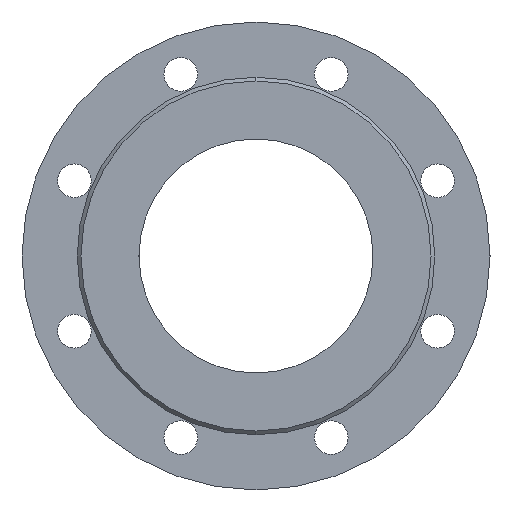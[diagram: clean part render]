
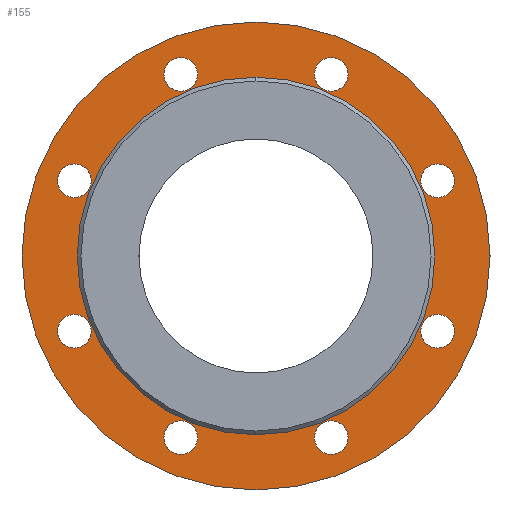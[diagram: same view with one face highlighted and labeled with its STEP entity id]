
A CAD part, left-side view. The second image highlights one B-rep face of the part: STEP entity #155.
In plain terms, the highlighted planar face has unit normal (-1, 0, 0).
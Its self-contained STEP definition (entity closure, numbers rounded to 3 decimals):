
#155=ADVANCED_FACE('',(#332,#333,#334,#335,#336,#337,#338,#339,#340,#341),#342,.F.);
#332=FACE_BOUND('',#596,.T.);
#333=FACE_BOUND('',#597,.T.);
#334=FACE_BOUND('',#598,.T.);
#335=FACE_BOUND('',#599,.T.);
#336=FACE_BOUND('',#600,.T.);
#337=FACE_BOUND('',#601,.T.);
#338=FACE_BOUND('',#602,.T.);
#339=FACE_BOUND('',#603,.T.);
#340=FACE_BOUND('',#604,.T.);
#341=FACE_OUTER_BOUND('',#605,.T.);
#342=PLANE('',#606);
#596=EDGE_LOOP('',(#899,#900));
#597=EDGE_LOOP('',(#901,#902));
#598=EDGE_LOOP('',(#903,#904));
#599=EDGE_LOOP('',(#905,#906));
#600=EDGE_LOOP('',(#907,#908));
#601=EDGE_LOOP('',(#909,#910));
#602=EDGE_LOOP('',(#911,#912));
#603=EDGE_LOOP('',(#913,#914));
#604=EDGE_LOOP('',(#915,#916));
#605=EDGE_LOOP('',(#917,#918));
#606=AXIS2_PLACEMENT_3D('',#919,#920,#921);
#899=ORIENTED_EDGE('',*,*,#1419,.T.);
#900=ORIENTED_EDGE('',*,*,#1385,.T.);
#901=ORIENTED_EDGE('',*,*,#1360,.T.);
#902=ORIENTED_EDGE('',*,*,#1420,.T.);
#903=ORIENTED_EDGE('',*,*,#1421,.T.);
#904=ORIENTED_EDGE('',*,*,#1422,.T.);
#905=ORIENTED_EDGE('',*,*,#1380,.T.);
#906=ORIENTED_EDGE('',*,*,#1397,.T.);
#907=ORIENTED_EDGE('',*,*,#1423,.T.);
#908=ORIENTED_EDGE('',*,*,#1424,.T.);
#909=ORIENTED_EDGE('',*,*,#1355,.T.);
#910=ORIENTED_EDGE('',*,*,#1425,.T.);
#911=ORIENTED_EDGE('',*,*,#1426,.T.);
#912=ORIENTED_EDGE('',*,*,#1427,.T.);
#913=ORIENTED_EDGE('',*,*,#1428,.T.);
#914=ORIENTED_EDGE('',*,*,#1429,.T.);
#915=ORIENTED_EDGE('',*,*,#1430,.T.);
#916=ORIENTED_EDGE('',*,*,#1431,.T.);
#917=ORIENTED_EDGE('',*,*,#1432,.F.);
#918=ORIENTED_EDGE('',*,*,#1403,.F.);
#919=CARTESIAN_POINT('',(2.0,0.0,0.));
#920=DIRECTION('',(1.0,0.0,0.));
#921=DIRECTION('',(0.,0.0,-1.0));
#1355=EDGE_CURVE('',#1576,#1580,#1582,.T.);
#1360=EDGE_CURVE('',#1585,#1589,#1591,.T.);
#1380=EDGE_CURVE('',#1621,#1625,#1627,.T.);
#1385=EDGE_CURVE('',#1630,#1634,#1636,.T.);
#1397=EDGE_CURVE('',#1625,#1621,#1656,.T.);
#1403=EDGE_CURVE('',#1664,#1659,#1666,.T.);
#1419=EDGE_CURVE('',#1634,#1630,#1692,.T.);
#1420=EDGE_CURVE('',#1589,#1585,#1693,.T.);
#1421=EDGE_CURVE('',#1694,#1695,#1696,.T.);
#1422=EDGE_CURVE('',#1695,#1694,#1697,.T.);
#1423=EDGE_CURVE('',#1698,#1699,#1700,.T.);
#1424=EDGE_CURVE('',#1699,#1698,#1701,.T.);
#1425=EDGE_CURVE('',#1580,#1576,#1702,.T.);
#1426=EDGE_CURVE('',#1703,#1704,#1705,.T.);
#1427=EDGE_CURVE('',#1704,#1703,#1706,.T.);
#1428=EDGE_CURVE('',#1707,#1708,#1709,.T.);
#1429=EDGE_CURVE('',#1708,#1707,#1710,.T.);
#1430=EDGE_CURVE('',#1711,#1712,#1713,.T.);
#1431=EDGE_CURVE('',#1712,#1711,#1714,.T.);
#1432=EDGE_CURVE('',#1659,#1664,#1715,.T.);
#1576=VERTEX_POINT('',#1903);
#1580=VERTEX_POINT('',#1908);
#1582=CIRCLE('',#1911,9.0);
#1585=VERTEX_POINT('',#1914);
#1589=VERTEX_POINT('',#1919);
#1591=CIRCLE('',#1922,9.0);
#1621=VERTEX_POINT('',#1956);
#1625=VERTEX_POINT('',#1961);
#1627=CIRCLE('',#1964,9.0);
#1630=VERTEX_POINT('',#1967);
#1634=VERTEX_POINT('',#1972);
#1636=CIRCLE('',#1975,62.5);
#1656=CIRCLE('',#1999,9.0);
#1659=VERTEX_POINT('',#2002);
#1664=VERTEX_POINT('',#2008);
#1666=CIRCLE('',#2011,125.0);
#1692=CIRCLE('',#2043,62.5);
#1693=CIRCLE('',#2044,9.0);
#1694=VERTEX_POINT('',#2045);
#1695=VERTEX_POINT('',#2046);
#1696=CIRCLE('',#2047,9.0);
#1697=CIRCLE('',#2048,9.0);
#1698=VERTEX_POINT('',#2049);
#1699=VERTEX_POINT('',#2050);
#1700=CIRCLE('',#2051,9.0);
#1701=CIRCLE('',#2052,9.0);
#1702=CIRCLE('',#2053,9.0);
#1703=VERTEX_POINT('',#2054);
#1704=VERTEX_POINT('',#2055);
#1705=CIRCLE('',#2056,9.0);
#1706=CIRCLE('',#2057,9.0);
#1707=VERTEX_POINT('',#2058);
#1708=VERTEX_POINT('',#2059);
#1709=CIRCLE('',#2060,9.0);
#1710=CIRCLE('',#2061,9.0);
#1711=VERTEX_POINT('',#2062);
#1712=VERTEX_POINT('',#2063);
#1713=CIRCLE('',#2064,9.0);
#1714=CIRCLE('',#2065,9.0);
#1715=CIRCLE('',#2066,125.0);
#1903=CARTESIAN_POINT('',(2.0,97.007,31.182));
#1908=CARTESIAN_POINT('',(2.0,97.007,49.182));
#1911=AXIS2_PLACEMENT_3D('',#2285,#2286,#2287);
#1914=CARTESIAN_POINT('',(2.0,97.007,-49.182));
#1919=CARTESIAN_POINT('',(2.0,97.007,-31.182));
#1922=AXIS2_PLACEMENT_3D('',#2293,#2294,#2295);
#1956=CARTESIAN_POINT('',(2.0,-97.007,31.182));
#1961=CARTESIAN_POINT('',(2.0,-97.007,49.182));
#1964=AXIS2_PLACEMENT_3D('',#2329,#2330,#2331);
#1967=CARTESIAN_POINT('',(2.0,0.,-62.5));
#1972=CARTESIAN_POINT('',(2.0,0.,62.5));
#1975=AXIS2_PLACEMENT_3D('',#2337,#2338,#2339);
#1999=AXIS2_PLACEMENT_3D('',#2356,#2357,#2358);
#2002=CARTESIAN_POINT('',(2.,0.0,-125.0));
#2008=CARTESIAN_POINT('',(2.,0.,125.0));
#2011=AXIS2_PLACEMENT_3D('',#2367,#2368,#2369);
#2043=AXIS2_PLACEMENT_3D('',#2391,#2392,#2393);
#2044=AXIS2_PLACEMENT_3D('',#2394,#2395,#2396);
#2045=CARTESIAN_POINT('',(2.0,40.182,-106.007));
#2046=CARTESIAN_POINT('',(2.0,40.182,-88.007));
#2047=AXIS2_PLACEMENT_3D('',#2397,#2398,#2399);
#2048=AXIS2_PLACEMENT_3D('',#2400,#2401,#2402);
#2049=CARTESIAN_POINT('',(2.0,-40.182,88.007));
#2050=CARTESIAN_POINT('',(2.,-40.182,106.007));
#2051=AXIS2_PLACEMENT_3D('',#2403,#2404,#2405);
#2052=AXIS2_PLACEMENT_3D('',#2406,#2407,#2408);
#2053=AXIS2_PLACEMENT_3D('',#2409,#2410,#2411);
#2054=CARTESIAN_POINT('',(2.0,40.182,88.007));
#2055=CARTESIAN_POINT('',(2.,40.182,106.007));
#2056=AXIS2_PLACEMENT_3D('',#2412,#2413,#2414);
#2057=AXIS2_PLACEMENT_3D('',#2415,#2416,#2417);
#2058=CARTESIAN_POINT('',(2.0,-97.007,-49.182));
#2059=CARTESIAN_POINT('',(2.0,-97.007,-31.182));
#2060=AXIS2_PLACEMENT_3D('',#2418,#2419,#2420);
#2061=AXIS2_PLACEMENT_3D('',#2421,#2422,#2423);
#2062=CARTESIAN_POINT('',(2.0,-40.182,-106.007));
#2063=CARTESIAN_POINT('',(2.0,-40.182,-88.007));
#2064=AXIS2_PLACEMENT_3D('',#2424,#2425,#2426);
#2065=AXIS2_PLACEMENT_3D('',#2427,#2428,#2429);
#2066=AXIS2_PLACEMENT_3D('',#2430,#2431,#2432);
#2285=CARTESIAN_POINT('',(2.0,97.007,40.182));
#2286=DIRECTION('',(1.0,0.0,0.));
#2287=DIRECTION('',(0.,0.0,-1.0));
#2293=CARTESIAN_POINT('',(2.0,97.007,-40.182));
#2294=DIRECTION('',(1.0,0.0,0.));
#2295=DIRECTION('',(0.,0.0,-1.0));
#2329=CARTESIAN_POINT('',(2.0,-97.007,40.182));
#2330=DIRECTION('',(1.0,0.0,0.));
#2331=DIRECTION('',(0.,0.0,-1.0));
#2337=CARTESIAN_POINT('',(2.0,0.0,0.));
#2338=DIRECTION('',(1.0,0.0,0.));
#2339=DIRECTION('',(0.,0.0,-1.0));
#2356=CARTESIAN_POINT('',(2.0,-97.007,40.182));
#2357=DIRECTION('',(1.0,0.0,0.));
#2358=DIRECTION('',(0.,0.0,-1.0));
#2367=CARTESIAN_POINT('',(2.0,0.0,0.));
#2368=DIRECTION('',(1.0,0.0,0.));
#2369=DIRECTION('',(0.,0.0,-1.0));
#2391=CARTESIAN_POINT('',(2.0,0.0,0.));
#2392=DIRECTION('',(1.0,0.0,0.));
#2393=DIRECTION('',(0.,0.0,-1.0));
#2394=CARTESIAN_POINT('',(2.0,97.007,-40.182));
#2395=DIRECTION('',(1.0,0.0,0.));
#2396=DIRECTION('',(0.,0.0,-1.0));
#2397=CARTESIAN_POINT('',(2.,40.182,-97.007));
#2398=DIRECTION('',(1.0,0.0,0.));
#2399=DIRECTION('',(0.,0.0,-1.0));
#2400=CARTESIAN_POINT('',(2.,40.182,-97.007));
#2401=DIRECTION('',(1.0,0.0,0.));
#2402=DIRECTION('',(0.,0.0,-1.0));
#2403=CARTESIAN_POINT('',(2.,-40.182,97.007));
#2404=DIRECTION('',(1.0,0.0,0.));
#2405=DIRECTION('',(0.,0.0,-1.0));
#2406=CARTESIAN_POINT('',(2.,-40.182,97.007));
#2407=DIRECTION('',(1.0,0.0,0.));
#2408=DIRECTION('',(0.,0.0,-1.0));
#2409=CARTESIAN_POINT('',(2.0,97.007,40.182));
#2410=DIRECTION('',(1.0,0.0,0.));
#2411=DIRECTION('',(0.,0.0,-1.0));
#2412=CARTESIAN_POINT('',(2.,40.182,97.007));
#2413=DIRECTION('',(1.0,0.0,0.));
#2414=DIRECTION('',(0.,0.0,-1.0));
#2415=CARTESIAN_POINT('',(2.,40.182,97.007));
#2416=DIRECTION('',(1.0,0.0,0.));
#2417=DIRECTION('',(0.,0.0,-1.0));
#2418=CARTESIAN_POINT('',(2.0,-97.007,-40.182));
#2419=DIRECTION('',(1.0,0.0,0.));
#2420=DIRECTION('',(0.,0.0,-1.0));
#2421=CARTESIAN_POINT('',(2.0,-97.007,-40.182));
#2422=DIRECTION('',(1.0,0.0,0.));
#2423=DIRECTION('',(0.,0.0,-1.0));
#2424=CARTESIAN_POINT('',(2.,-40.182,-97.007));
#2425=DIRECTION('',(1.0,0.0,0.));
#2426=DIRECTION('',(0.,0.0,-1.0));
#2427=CARTESIAN_POINT('',(2.,-40.182,-97.007));
#2428=DIRECTION('',(1.0,0.0,0.));
#2429=DIRECTION('',(0.,0.0,-1.0));
#2430=CARTESIAN_POINT('',(2.0,0.0,0.));
#2431=DIRECTION('',(1.0,0.0,0.));
#2432=DIRECTION('',(0.,0.0,-1.0));
